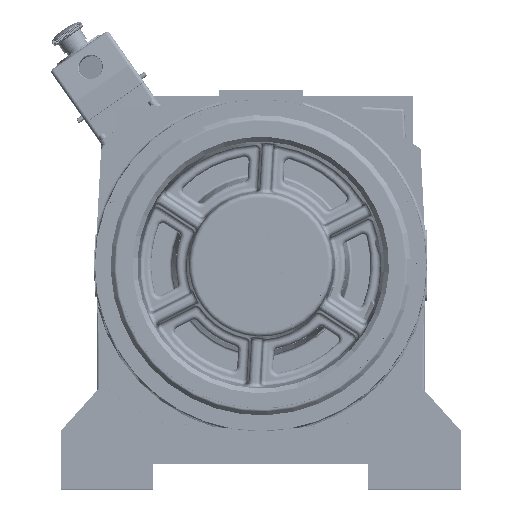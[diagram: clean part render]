
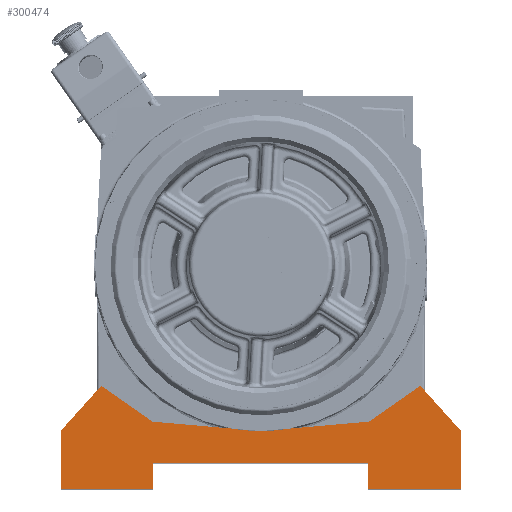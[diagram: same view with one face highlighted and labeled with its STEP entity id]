
A CAD part, top view. The second image highlights one B-rep face of the part: STEP entity #300474.
In plain terms, the highlighted planar face has unit normal (0, 0, 1).
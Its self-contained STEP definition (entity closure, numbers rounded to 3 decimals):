
#4482 = DIRECTION ( 'NONE',  ( 1., 0., 0. ) ) ;
#7553 = CARTESIAN_POINT ( 'NONE',  ( -256.147, -265.77, 216.021 ) ) ;
#9446 = EDGE_CURVE ( 'NONE', #107173, #246166, #268328, .T. ) ;
#10472 = LINE ( 'NONE', #294292, #160828 ) ;
#12338 = VERTEX_POINT ( 'NONE', #269838 ) ;
#13177 = VERTEX_POINT ( 'NONE', #63424 ) ;
#15367 = ORIENTED_EDGE ( 'NONE', *, *, #270673, .T. ) ;
#16419 = CARTESIAN_POINT ( 'NONE',  ( -214.208, -149.116, 216.021 ) ) ;
#17903 = DIRECTION ( 'NONE',  ( -1., 0., 0. ) ) ;
#18401 = EDGE_CURVE ( 'NONE', #151498, #107173, #208497, .T. ) ;
#19643 = VECTOR ( 'NONE', #75236, 1000. ) ;
#26182 = ORIENTED_EDGE ( 'NONE', *, *, #132203, .F. ) ;
#28151 = CARTESIAN_POINT ( 'NONE',  ( 87.636, -190.2, 216.021 ) ) ;
#28661 = DIRECTION ( 'NONE',  ( -0.996, 0.087, 0. ) ) ;
#41000 = CARTESIAN_POINT ( 'NONE',  ( -33.193, -200.771, 216.021 ) ) ;
#41135 = CARTESIAN_POINT ( 'NONE',  ( -33.193, -200.771, 216.021 ) ) ;
#42265 = CARTESIAN_POINT ( 'NONE',  ( 189.762, -265.77, 216.021 ) ) ;
#45563 = CARTESIAN_POINT ( 'NONE',  ( -255.377, -199.344, 216.021 ) ) ;
#54417 = DIRECTION ( 'NONE',  ( -1., 0., 0. ) ) ;
#56826 = CARTESIAN_POINT ( 'NONE',  ( -211.212, -148.959, 216.021 ) ) ;
#63424 = CARTESIAN_POINT ( 'NONE',  ( -256.147, -201.351, 216.021 ) ) ;
#67872 = CARTESIAN_POINT ( 'NONE',  ( 87.636, -190.2, 216.021 ) ) ;
#75236 = DIRECTION ( 'NONE',  ( 0., -1., 0. ) ) ;
#77712 = VERTEX_POINT ( 'NONE', #258238 ) ;
#81067 = CARTESIAN_POINT ( 'NONE',  ( -33.193, -15.771, 216.021 ) ) ;
#81255 = VECTOR ( 'NONE', #255339, 1000. ) ;
#84897 = LINE ( 'NONE', #120746, #251574 ) ;
#84990 = VECTOR ( 'NONE', #92021, 1000. ) ;
#88221 = AXIS2_PLACEMENT_3D ( 'NONE', #16419, #301757, #228127 ) ;
#92021 = DIRECTION ( 'NONE',  ( 0., -1., 0. ) ) ;
#95748 = CARTESIAN_POINT ( 'NONE',  ( -153.193, -189.097, 216.021 ) ) ;
#97066 = LINE ( 'NONE', #236639, #251015 ) ;
#99957 = EDGE_CURVE ( 'NONE', #165890, #12338, #125675, .T. ) ;
#104084 = DIRECTION ( 'NONE',  ( 0.052, -0.999, 0. ) ) ;
#106137 = DIRECTION ( 'NONE',  ( 0., 1., 0. ) ) ;
#107173 = VERTEX_POINT ( 'NONE', #295630 ) ;
#109504 = VECTOR ( 'NONE', #4482, 1000. ) ;
#110290 = ORIENTED_EDGE ( 'NONE', *, *, #18401, .T. ) ;
#110706 = ORIENTED_EDGE ( 'NONE', *, *, #189645, .T. ) ;
#114758 = VERTEX_POINT ( 'NONE', #67872 ) ;
#114790 = ORIENTED_EDGE ( 'NONE', *, *, #245532, .T. ) ;
#115031 = DIRECTION ( 'NONE',  ( -0.819, 0.574, 0. ) ) ;
#118268 = ORIENTED_EDGE ( 'NONE', *, *, #119460, .T. ) ;
#119108 = AXIS2_PLACEMENT_3D ( 'NONE', #81067, #162200, #226667 ) ;
#119460 = EDGE_CURVE ( 'NONE', #165890, #285195, #179717, .T. ) ;
#120746 = CARTESIAN_POINT ( 'NONE',  ( -33.193, -200.771, 216.021 ) ) ;
#121119 = CARTESIAN_POINT ( 'NONE',  ( -153.193, -236.77, 216.021 ) ) ;
#122822 = VERTEX_POINT ( 'NONE', #168623 ) ;
#123584 = CIRCLE ( 'NONE', #177668, 3. ) ;
#124289 = CARTESIAN_POINT ( 'NONE',  ( -256.147, -200.2, 216.021 ) ) ;
#124950 = CARTESIAN_POINT ( 'NONE',  ( -211.147, -150.2, 216.021 ) ) ;
#125675 = LINE ( 'NONE', #7553, #223166 ) ;
#127106 = VECTOR ( 'NONE', #212310, 1000. ) ;
#127327 = VECTOR ( 'NONE', #184758, 1000. ) ;
#128425 = CARTESIAN_POINT ( 'NONE',  ( -256.147, -265.77, 216.021 ) ) ;
#129358 = ORIENTED_EDGE ( 'NONE', *, *, #247431, .T. ) ;
#132203 = EDGE_CURVE ( 'NONE', #223750, #207797, #10472, .T. ) ;
#133499 = LINE ( 'NONE', #273188, #246926 ) ;
#135187 = VERTEX_POINT ( 'NONE', #284643 ) ;
#135426 = CARTESIAN_POINT ( 'NONE',  ( -153.193, -190.78, 216.021 ) ) ;
#135863 = VECTOR ( 'NONE', #159316, 1000. ) ;
#141560 = ORIENTED_EDGE ( 'NONE', *, *, #277661, .T. ) ;
#143446 = CARTESIAN_POINT ( 'NONE',  ( -253.147, -201.351, 216.021 ) ) ;
#147436 = VECTOR ( 'NONE', #274288, 1000. ) ;
#147800 = VECTOR ( 'NONE', #106137, 1000. ) ;
#148641 = CARTESIAN_POINT ( 'NONE',  ( -153.193, -265.77, 216.021 ) ) ;
#149225 = EDGE_CURVE ( 'NONE', #163230, #213878, #84897, .T. ) ;
#149549 = VECTOR ( 'NONE', #205472, 1000. ) ;
#151497 = LINE ( 'NONE', #128425, #260669 ) ;
#151498 = VERTEX_POINT ( 'NONE', #148641 ) ;
#159316 = DIRECTION ( 'NONE',  ( -0.996, -0.087, 0. ) ) ;
#160828 = VECTOR ( 'NONE', #104084, 1000. ) ;
#162200 = DIRECTION ( 'NONE',  ( 0., 0., -1. ) ) ;
#163230 = VERTEX_POINT ( 'NONE', #41000 ) ;
#165890 = VERTEX_POINT ( 'NONE', #42265 ) ;
#168623 = CARTESIAN_POINT ( 'NONE',  ( -211.978, -151.123, 216.021 ) ) ;
#169126 = DIRECTION ( 'NONE',  ( -0.819, 0.574, 0. ) ) ;
#172836 = ORIENTED_EDGE ( 'NONE', *, *, #293098, .T. ) ;
#174014 = DIRECTION ( 'NONE',  ( 0., 0., 1. ) ) ;
#175453 = CARTESIAN_POINT ( 'NONE',  ( -153.193, -190.272, 216.021 ) ) ;
#177668 = AXIS2_PLACEMENT_3D ( 'NONE', #143446, #174014, #54417 ) ;
#179717 = LINE ( 'NONE', #247240, #147800 ) ;
#180309 = EDGE_CURVE ( 'NONE', #285195, #251874, #229723, .T. ) ;
#182516 = CARTESIAN_POINT ( 'NONE',  ( 86.807, -279.77, 216.021 ) ) ;
#183697 = CARTESIAN_POINT ( 'NONE',  ( 144.762, -150.2, 216.021 ) ) ;
#184758 = DIRECTION ( 'NONE',  ( 0., -1., 0. ) ) ;
#189645 = EDGE_CURVE ( 'NONE', #122822, #229603, #278425, .T. ) ;
#190077 = ORIENTED_EDGE ( 'NONE', *, *, #293532, .T. ) ;
#190708 = ORIENTED_EDGE ( 'NONE', *, *, #205471, .T. ) ;
#192293 = LINE ( 'NONE', #28151, #127106 ) ;
#195652 = ORIENTED_EDGE ( 'NONE', *, *, #180309, .T. ) ;
#197653 = FACE_OUTER_BOUND ( 'NONE', #240504, .T. ) ;
#203396 = EDGE_CURVE ( 'NONE', #151498, #77712, #151497, .T. ) ;
#204820 = CARTESIAN_POINT ( 'NONE',  ( -211.147, -150.2, 216.021 ) ) ;
#204841 = ORIENTED_EDGE ( 'NONE', *, *, #99957, .F. ) ;
#205471 = EDGE_CURVE ( 'NONE', #246166, #12338, #300673, .T. ) ;
#205472 = DIRECTION ( 'NONE',  ( 0., 1., 0. ) ) ;
#206721 = ORIENTED_EDGE ( 'NONE', *, *, #149225, .T. ) ;
#207793 = LINE ( 'NONE', #95748, #127327 ) ;
#207797 = VERTEX_POINT ( 'NONE', #124950 ) ;
#208497 = LINE ( 'NONE', #274528, #149549 ) ;
#212310 = DIRECTION ( 'NONE',  ( -0.819, -0.574, 0. ) ) ;
#213878 = VERTEX_POINT ( 'NONE', #175453 ) ;
#218334 = CARTESIAN_POINT ( 'NONE',  ( 189.762, -200.2, 216.021 ) ) ;
#220458 = CIRCLE ( 'NONE', #88221, 3. ) ;
#223166 = VECTOR ( 'NONE', #268362, 1000. ) ;
#223750 = VERTEX_POINT ( 'NONE', #56826 ) ;
#226667 = DIRECTION ( 'NONE',  ( 1., 0., 0. ) ) ;
#228127 = DIRECTION ( 'NONE',  ( -1., 0., 0. ) ) ;
#229603 = VERTEX_POINT ( 'NONE', #45563 ) ;
#229723 = LINE ( 'NONE', #183697, #147436 ) ;
#236639 = CARTESIAN_POINT ( 'NONE',  ( -153.193, -190.78, 216.021 ) ) ;
#240504 = EDGE_LOOP ( 'NONE', ( #114790, #264871, #110290, #244478, #190708, #204841, #118268, #195652, #253021, #141560, #206721, #266397, #15367, #190077, #26182, #129358, #110706, #172836 ) ) ;
#240887 = EDGE_CURVE ( 'NONE', #251874, #114758, #192293, .T. ) ;
#241612 = EDGE_CURVE ( 'NONE', #213878, #275911, #207793, .T. ) ;
#244478 = ORIENTED_EDGE ( 'NONE', *, *, #9446, .T. ) ;
#245532 = EDGE_CURVE ( 'NONE', #13177, #77712, #263940, .T. ) ;
#246166 = VERTEX_POINT ( 'NONE', #274156 ) ;
#246926 = VECTOR ( 'NONE', #115031, 1000. ) ;
#247240 = CARTESIAN_POINT ( 'NONE',  ( 189.762, -200.2, 216.021 ) ) ;
#247431 = EDGE_CURVE ( 'NONE', #223750, #122822, #220458, .T. ) ;
#251015 = VECTOR ( 'NONE', #169126, 1000. ) ;
#251303 = LINE ( 'NONE', #41135, #135863 ) ;
#251574 = VECTOR ( 'NONE', #28661, 1000. ) ;
#251874 = VERTEX_POINT ( 'NONE', #255716 ) ;
#253021 = ORIENTED_EDGE ( 'NONE', *, *, #240887, .T. ) ;
#255339 = DIRECTION ( 'NONE',  ( -0.669, -0.743, 0. ) ) ;
#255716 = CARTESIAN_POINT ( 'NONE',  ( 144.762, -150.2, 216.021 ) ) ;
#258238 = CARTESIAN_POINT ( 'NONE',  ( -256.147, -265.77, 216.021 ) ) ;
#260669 = VECTOR ( 'NONE', #17903, 1000. ) ;
#263940 = LINE ( 'NONE', #124289, #19643 ) ;
#264871 = ORIENTED_EDGE ( 'NONE', *, *, #203396, .F. ) ;
#266397 = ORIENTED_EDGE ( 'NONE', *, *, #241612, .T. ) ;
#268328 = LINE ( 'NONE', #121119, #109504 ) ;
#268362 = DIRECTION ( 'NONE',  ( -1., 0., 0. ) ) ;
#269838 = CARTESIAN_POINT ( 'NONE',  ( 86.807, -265.77, 216.021 ) ) ;
#270673 = EDGE_CURVE ( 'NONE', #275911, #135187, #133499, .T. ) ;
#273188 = CARTESIAN_POINT ( 'NONE',  ( -153.193, -190.78, 216.021 ) ) ;
#274156 = CARTESIAN_POINT ( 'NONE',  ( 86.807, -236.77, 216.021 ) ) ;
#274288 = DIRECTION ( 'NONE',  ( -0.669, 0.743, 0. ) ) ;
#274528 = CARTESIAN_POINT ( 'NONE',  ( -153.193, -279.77, 216.021 ) ) ;
#275911 = VERTEX_POINT ( 'NONE', #135426 ) ;
#277661 = EDGE_CURVE ( 'NONE', #114758, #163230, #251303, .T. ) ;
#278425 = LINE ( 'NONE', #204820, #81255 ) ;
#284643 = CARTESIAN_POINT ( 'NONE',  ( -154.022, -190.2, 216.021 ) ) ;
#285195 = VERTEX_POINT ( 'NONE', #218334 ) ;
#291261 = PLANE ( 'NONE',  #119108 ) ;
#293098 = EDGE_CURVE ( 'NONE', #229603, #13177, #123584, .T. ) ;
#293532 = EDGE_CURVE ( 'NONE', #135187, #207797, #97066, .T. ) ;
#294292 = CARTESIAN_POINT ( 'NONE',  ( -217.686, -25.44, 216.021 ) ) ;
#295630 = CARTESIAN_POINT ( 'NONE',  ( -153.193, -236.77, 216.021 ) ) ;
#300474 = ADVANCED_FACE ( 'NONE', ( #197653 ), #291261, .F. ) ;
#300673 = LINE ( 'NONE', #182516, #84990 ) ;
#301757 = DIRECTION ( 'NONE',  ( 0., 0., -1. ) ) ;
